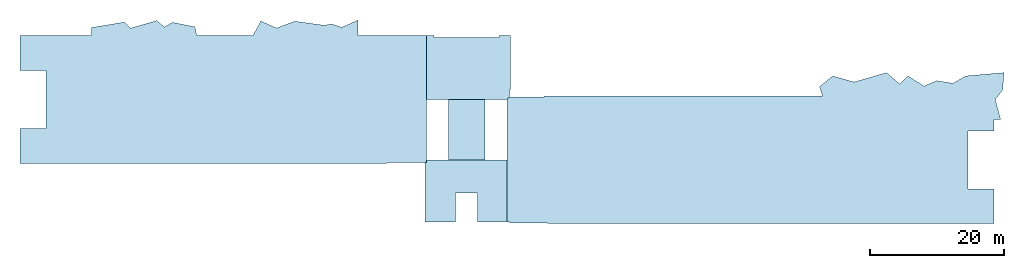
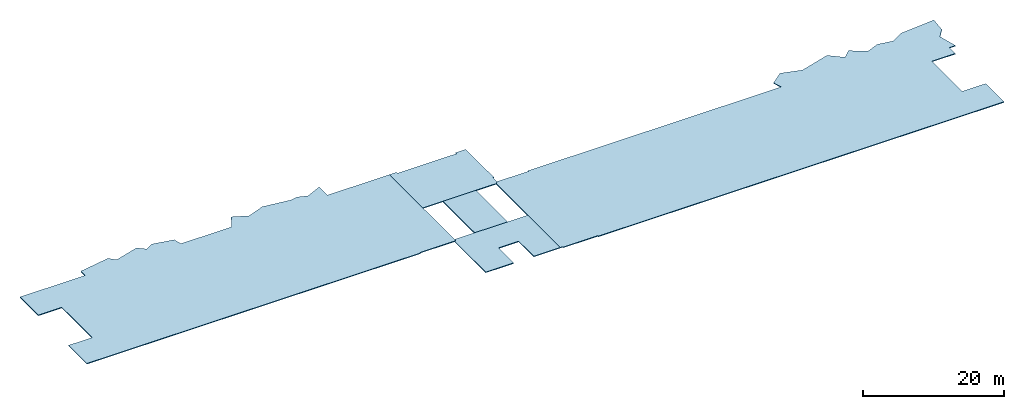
# One storey: 5 slabs.
"""IFC2X3 building model written with IfcOpenShell, lengths in millimetres."""

from ifc_helpers import new_model, si_unit, origin, place, context, project, spatial, faceted_brep, material, element, save


model = new_model("IFC2X3")

# Units and contexts
context_of_model = context(None, 3, precision=1e-05, world=origin())
ifc_project = project(units=[si_unit("LENGTHUNIT", "METRE", prefix="MILLI")], contexts=[context_of_model])

# Building, storey
building = spatial("IfcBuilding", under=ifc_project, Name="Building", CompositionType="ELEMENT")
storey = spatial("IfcBuildingStorey", under=building, Name="FL4-PLT", CompositionType="ELEMENT")

# Slabs
ifc_material_1 = material(Name="C4000")
slab_1_placement = place(None, origin())
element("IfcSlab", 1, at=slab_1_placement, inside=storey, material=ifc_material_1, Name="Floor8", PredefinedType="FLOOR", context=context_of_model, shape_type="Brep", body=[
    faceted_brep([(3300.0, 18000.0, 13296.8), (8700.0, 18000.0, 13296.8), (8700.0, 18000.0, 13500.0), (3300.0, 18000.0, 13500.0), (8700.0, 27000.0, 13296.8), (8700.0, 27000.0, 13500.0), (3300.0, 27000.0, 13296.8), (3300.0, 27000.0, 13500.0)], [[[0, 1, 2, 3]], [[1, 4, 5, 2]], [[4, 6, 7, 5]], [[6, 0, 3, 7]], [[3, 2, 5, 7]], [[0, 6, 4, 1]]]),
])
ifc_material_2 = material(Name="C3000")
slab_2_placement = place(None, origin())
element("IfcSlab", 2, at=slab_2_placement, inside=storey, material=ifc_material_2, Name="Wall192", PredefinedType="FLOOR", context=context_of_model, shape_type="Brep", body=[
    faceted_brep([(0.0, 17635.0, 13373.0), (-225.0, 17635.0, 13373.0), (-225.0, 17635.0, 13500.0), (0.0, 17635.0, 13500.0), (-225.0, 8775.0, 13373.0), (-225.0, 8775.0, 13500.0), (0.0, 8775.0, 13373.0), (0.0, 8775.0, 13500.0), (4351.0, 8775.0, 13373.0), (4351.0, 8775.0, 13500.0), (4351.0, 13060.2, 13373.0), (4351.0, 13060.2, 13500.0), (7649.0, 13060.2, 13373.0), (7649.0, 13060.2, 13500.0), (7649.0, 8775.0, 13373.0), (7649.0, 8775.0, 13500.0), (12000.0, 8775.0, 13373.0), (12000.0, 8775.0, 13500.0), (12000.0, 18000.0, 13373.0), (12000.0, 18000.0, 13500.0), (0.0, 18000.0, 13373.0), (0.0, 18000.0, 13500.0)], [[[0, 1, 2, 3]], [[1, 4, 5, 2]], [[4, 6, 7, 5]], [[6, 8, 9, 7]], [[8, 10, 11, 9]], [[10, 12, 13, 11]], [[12, 14, 15, 13]], [[14, 16, 17, 15]], [[16, 18, 19, 17]], [[18, 20, 21, 19]], [[20, 0, 3, 21]], [[3, 2, 5, 7, 9, 11, 13, 15, 17, 19, 21]], [[0, 20, 18, 16, 14, 12, 10, 8, 6, 4, 1]]]),
])
ifc_material_3 = material(Name="C3000")
slab_3_placement = place(None, origin())
element("IfcSlab", 3, at=slab_3_placement, inside=storey, material=ifc_material_3, Name="Wall197", PredefinedType="FLOOR", context=context_of_model, shape_type="Brep", body=[
    faceted_brep([(12000.0, 27000.0, 13373.0), (12000.0, 18000.0, 13373.0), (12000.0, 18000.0, 13500.0), (12000.0, 27000.0, 13500.0), (12000.0, 8775.0, 13373.0), (12000.0, 8775.0, 13500.0), (12365.0, 8775.0, 13373.0), (12365.0, 8775.0, 13500.0), (12365.0, 8635.0, 13373.0), (12365.0, 8635.0, 13500.0), (18038.0, 8635.0, 13373.0), (18038.0, 8635.0, 13500.0), (18038.0, 8500.0, 13373.0), (18038.0, 8500.0, 13500.0), (84500.0, 8500.0, 13373.0), (84500.0, 8500.0, 13500.0), (84500.0, 8700.0, 13373.0), (84500.0, 8700.0, 13500.0), (84500.0, 13700.0, 13373.0), (84500.0, 13700.0, 13500.0), (80650.0, 13700.0, 13373.0), (80650.0, 13700.0, 13500.0), (80650.0, 22300.0, 13373.0), (80650.0, 22300.0, 13500.0), (84500.0, 22300.0, 13373.0), (84500.0, 22300.0, 13500.0), (84500.0, 24000.0, 13373.0), (84500.0, 24000.0, 13500.0), (85500.0, 24000.0, 13373.0), (85500.0, 24000.0, 13500.0), (84700.0, 27000.0, 13373.0), (84700.0, 27000.0, 13500.0), (85800.0, 28400.0, 13373.0), (85800.0, 28400.0, 13500.0), (86000.0, 31000.0, 13373.0), (86000.0, 31000.0, 13500.0), (80300.0, 30500.0, 13373.0), (80300.0, 30500.0, 13500.0), (78400.0, 29400.0, 13373.0), (78400.0, 29400.0, 13500.0), (76000.0, 29800.0, 13373.0), (76000.0, 29800.0, 13500.0), (74100.0, 29000.0, 13373.0), (74100.0, 29000.0, 13500.0), (71700.0, 30500.0, 13373.0), (71700.0, 30500.0, 13500.0), (70500.0, 29300.0, 13373.0), (70500.0, 29300.0, 13500.0), (68500.0, 31000.0, 13373.0), (68500.0, 31000.0, 13500.0), (63700.0, 29600.0, 13373.0), (63700.0, 29600.0, 13500.0), (60500.0, 30500.0, 13373.0), (60500.0, 30500.0, 13500.0), (58533.3, 28900.0, 13373.0), (58533.3, 28900.0, 13500.0), (59000.0, 27500.0, 13373.0), (59000.0, 27500.0, 13500.0), (17500.0, 27500.0, 13373.0), (17500.0, 27500.0, 13500.0), (17500.0, 27365.0, 13373.0), (17500.0, 27365.0, 13500.0), (12365.0, 27365.0, 13373.0), (12365.0, 27365.0, 13500.0)], [[[0, 1, 2, 3]], [[1, 4, 5, 2]], [[4, 6, 7, 5]], [[6, 8, 9, 7]], [[8, 10, 11, 9]], [[10, 12, 13, 11]], [[12, 14, 15, 13]], [[14, 16, 17, 15]], [[16, 18, 19, 17]], [[18, 20, 21, 19]], [[20, 22, 23, 21]], [[22, 24, 25, 23]], [[24, 26, 27, 25]], [[26, 28, 29, 27]], [[28, 30, 31, 29]], [[30, 32, 33, 31]], [[32, 34, 35, 33]], [[34, 36, 37, 35]], [[36, 38, 39, 37]], [[38, 40, 41, 39]], [[40, 42, 43, 41]], [[42, 44, 45, 43]], [[44, 46, 47, 45]], [[46, 48, 49, 47]], [[48, 50, 51, 49]], [[50, 52, 53, 51]], [[52, 54, 55, 53]], [[54, 56, 57, 55]], [[56, 58, 59, 57]], [[58, 60, 61, 59]], [[60, 62, 63, 61]], [[62, 0, 3, 63]], [[3, 2, 5, 7, 9, 11, 13, 15, 17, 19, 21, 23, 25, 27, 29, 31, 33, 35, 37, 39, 41, 43, 45, 47, 49, 51, 53, 55, 57, 59, 61, 63]], [[0, 62, 60, 58, 56, 54, 52, 50, 48, 46, 44, 42, 40, 38, 36, 34, 32, 30, 28, 26, 24, 22, 20, 18, 16, 14, 12, 10, 8, 6, 4, 1]]]),
])
ifc_material_4 = material(Name="C3000")
slab_4_placement = place(None, origin())
element("IfcSlab", 4, at=slab_4_placement, inside=storey, material=ifc_material_4, Name="Wall208", PredefinedType="FLOOR", context=context_of_model, shape_type="Brep", body=[
    faceted_brep([(0.0, 27000.0, 13373.0), (0.0, 36500.0, 13373.0), (0.0, 36500.0, 13500.0), (0.0, 27000.0, 13500.0), (-3150.0, 36500.0, 13373.0), (-3150.0, 36500.0, 13500.0), (-10150.0, 36500.0, 13373.0), (-10150.0, 36500.0, 13500.0), (-10150.0, 38832.6, 13373.0), (-10150.0, 38832.6, 13500.0), (-12580.2, 37735.3, 13373.0), (-12580.2, 37735.3, 13500.0), (-14111.0, 38245.5, 13373.0), (-14111.0, 38245.5, 13500.0), (-15196.6, 38048.2, 13373.0), (-15196.6, 38048.2, 13500.0), (-19583.1, 38646.3, 13373.0), (-19583.1, 38646.3, 13500.0), (-22305.1, 37638.1, 13373.0), (-22305.1, 37638.1, 13500.0), (-24654.5, 38682.3, 13373.0), (-24654.5, 38682.3, 13500.0), (-25829.6, 36500.0, 13373.0), (-25829.6, 36500.0, 13500.0), (-34154.4, 36500.0, 13373.0), (-34154.4, 36500.0, 13500.0), (-34474.2, 37814.8, 13373.0), (-34474.2, 37814.8, 13500.0), (-37804.3, 38480.9, 13373.0), (-37804.3, 38480.9, 13500.0), (-39002.0, 37782.1, 13373.0), (-39002.0, 37782.1, 13500.0), (-40139.3, 38744.4, 13373.0), (-40139.3, 38744.4, 13500.0), (-44030.2, 37618.1, 13373.0), (-44030.2, 37618.1, 13500.0), (-44939.4, 38527.2, 13373.0), (-44939.4, 38527.2, 13500.0), (-49850.0, 37708.8, 13373.0), (-49850.0, 37708.8, 13500.0), (-49850.0, 36500.0, 13373.0), (-49850.0, 36500.0, 13500.0), (-60500.0, 36500.0, 13373.0), (-60500.0, 36500.0, 13500.0), (-60500.0, 31300.0, 13373.0), (-60500.0, 31300.0, 13500.0), (-56650.0, 31300.0, 13373.0), (-56650.0, 31300.0, 13500.0), (-56650.0, 22700.0, 13373.0), (-56650.0, 22700.0, 13500.0), (-60500.0, 22700.0, 13373.0), (-60500.0, 22700.0, 13500.0), (-60500.0, 17500.0, 13373.0), (-60500.0, 17500.0, 13500.0), (-5898.0, 17500.0, 13373.0), (-5898.0, 17500.0, 13500.0), (-5898.0, 17635.0, 13373.0), (-5898.0, 17635.0, 13500.0), (0.0, 17635.0, 13373.0), (0.0, 17635.0, 13500.0)], [[[0, 1, 2, 3]], [[1, 4, 5, 2]], [[4, 6, 7, 5]], [[6, 8, 9, 7]], [[8, 10, 11, 9]], [[10, 12, 13, 11]], [[12, 14, 15, 13]], [[14, 16, 17, 15]], [[16, 18, 19, 17]], [[18, 20, 21, 19]], [[20, 22, 23, 21]], [[22, 24, 25, 23]], [[24, 26, 27, 25]], [[26, 28, 29, 27]], [[28, 30, 31, 29]], [[30, 32, 33, 31]], [[32, 34, 35, 33]], [[34, 36, 37, 35]], [[36, 38, 39, 37]], [[38, 40, 41, 39]], [[40, 42, 43, 41]], [[42, 44, 45, 43]], [[44, 46, 47, 45]], [[46, 48, 49, 47]], [[48, 50, 51, 49]], [[50, 52, 53, 51]], [[52, 54, 55, 53]], [[54, 56, 57, 55]], [[56, 58, 59, 57]], [[58, 0, 3, 59]], [[3, 2, 5, 7, 9, 11, 13, 15, 17, 19, 21, 23, 25, 27, 29, 31, 33, 35, 37, 39, 41, 43, 45, 47, 49, 51, 53, 55, 57, 59]], [[0, 58, 56, 54, 52, 50, 48, 46, 44, 42, 40, 38, 36, 34, 32, 30, 28, 26, 24, 22, 20, 18, 16, 14, 12, 10, 8, 6, 4, 1]]]),
])
ifc_material_5 = material(Name="C3000")
slab_5_placement = place(None, origin())
element("IfcSlab", 5, at=slab_5_placement, inside=storey, material=ifc_material_5, Name="Wall209", PredefinedType="FLOOR", context=context_of_model, shape_type="Brep", body=[
    faceted_brep([(0.0, 27000.0, 13373.0), (12000.0, 27000.0, 13373.0), (12000.0, 27000.0, 13500.0), (0.0, 27000.0, 13500.0), (12365.0, 27365.0, 13373.0), (12365.0, 27365.0, 13500.0), (12365.3, 28500.0, 13373.0), (12365.3, 28500.0, 13500.0), (12500.0, 28500.0, 13373.0), (12500.0, 28500.0, 13500.0), (12500.0, 36500.0, 13373.0), (12500.0, 36500.0, 13500.0), (10827.0, 36500.0, 13373.0), (10827.0, 36500.0, 13500.0), (10827.0, 36225.0, 13373.0), (10827.0, 36225.0, 13500.0), (1173.0, 36225.0, 13373.0), (1173.0, 36225.0, 13500.0), (1173.0, 36500.0, 13373.0), (1173.0, 36500.0, 13500.0), (0.0, 36500.0, 13373.0), (0.0, 36500.0, 13500.0)], [[[0, 1, 2, 3]], [[1, 4, 5, 2]], [[4, 6, 7, 5]], [[6, 8, 9, 7]], [[8, 10, 11, 9]], [[10, 12, 13, 11]], [[12, 14, 15, 13]], [[14, 16, 17, 15]], [[16, 18, 19, 17]], [[18, 20, 21, 19]], [[20, 0, 3, 21]], [[3, 2, 5, 7, 9, 11, 13, 15, 17, 19, 21]], [[0, 20, 18, 16, 14, 12, 10, 8, 6, 4, 1]]]),
])

save(model, "model.ifc")
